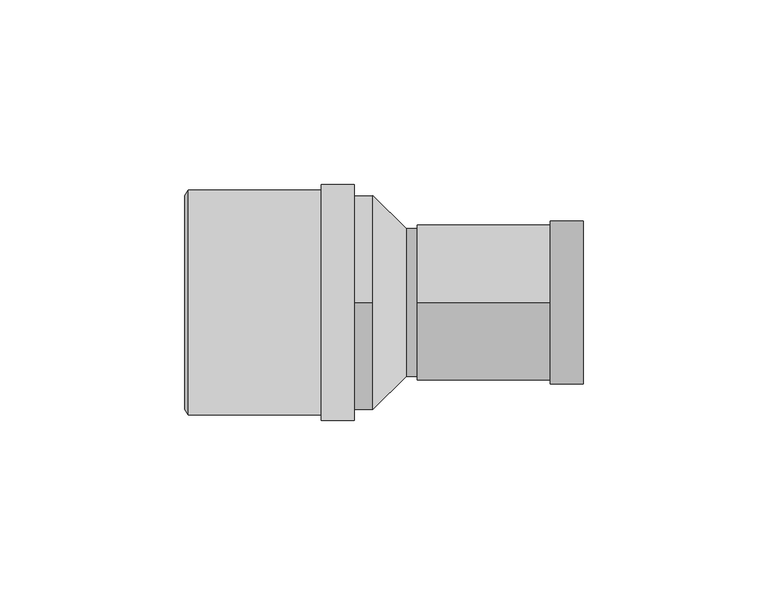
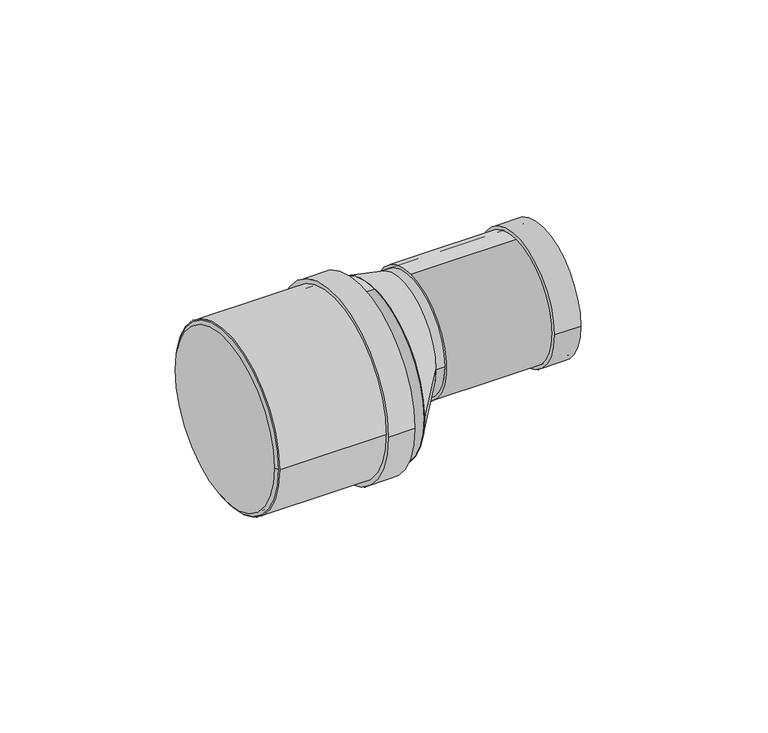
"""IFC4 building model written with IfcOpenShell, lengths in millimetres: pipe fitting geometry, Superdrain SK Reduction to HT : Superdrain SK Reduction to HT."""

from ifc_helpers import new_model, si_unit, point, frame, frame_2d, origin, origin_2d, place, context, project, spatial, polyline, circle_curve, trimmed, segment, composite_curve, outline, extrude, source, transform, mapped, element, save
from ifc_brep_helpers import plane_surface, revolved_surface, spline_surface, advanced_brep


def pipe_fitting_dc30568a(model_context):
    return source(origin(), model_context, "Body", "SolidModel", [
        extrude(outline(composite_curve([segment(trimmed(circle_curve(frame_2d((0.0, 0.1450234)), 30.45), [point((30.45, 0.1450234))], [point((-30.45, 0.1450234))], False, "CARTESIAN"), True, "CONTINUOUS"), segment(trimmed(circle_curve(frame_2d((0.0, 0.1450234)), 30.45), [point((-30.45, 0.1450234))], [point((30.45, 0.1450234))], False, "CARTESIAN"), True, "CONTINUOUS")], self_intersect=False), holes=[composite_curve([segment(trimmed(circle_curve(frame_2d((0.0, 0.1450234)), 29.0), [point((29.0, 0.1450234))], [point((-29.0, 0.1450234))], True, "CARTESIAN"), True, "CONTINUOUS"), segment(trimmed(circle_curve(frame_2d((0.0, 0.1450234)), 29.0), [point((-29.0, 0.1450234))], [point((29.0, 0.1450234))], True, "CARTESIAN"), True, "CONTINUOUS")], self_intersect=False)]), frame((-50.0, 0.0, 0.0), z_axis=(1.0, 0.0, 0.0), x_axis=(0.0, 1.0, 0.0)), (0.0, 0.0, 1.0), 45.0),
        extrude(outline(composite_curve([segment(trimmed(circle_curve(frame_2d((0.0, 0.1450234)), 31.9725), [point((31.9725, 0.1450234))], [point((-31.9725, 0.1450234))], False, "CARTESIAN"), True, "CONTINUOUS"), segment(trimmed(circle_curve(frame_2d((0.0, 0.1450234)), 31.9725), [point((-31.9725, 0.1450234))], [point((31.9725, 0.1450234))], False, "CARTESIAN"), True, "CONTINUOUS")], self_intersect=False), holes=[composite_curve([segment(trimmed(circle_curve(frame_2d((0.0, 0.1450234)), 29.0), [point((29.0, 0.1450234))], [point((-29.0, 0.1450234))], True, "CARTESIAN"), True, "CONTINUOUS"), segment(trimmed(circle_curve(frame_2d((0.0, 0.1450234)), 29.0), [point((-29.0, 0.1450234))], [point((29.0, 0.1450234))], True, "CARTESIAN"), True, "CONTINUOUS")], self_intersect=False)]), frame((-14.0, 0.0, 0.0), z_axis=(1.0, 0.0, 0.0), x_axis=(0.0, 1.0, 0.0)), (0.0, 0.0, 1.0), 9.0),
        advanced_brep(
        [(-51.0, 29.0, 0.1450234), (-51.0, -29.0, 0.1450234), (-50.0, 30.45, 0.1450234), (-50.0, -30.45, 0.1450234)],
        [
            (0, 1, circle_curve(frame((-51.0, 0.0, 0.1450234), z_axis=(-1.0, 0.0, 0.0), x_axis=(0.0, 1.0000000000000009, 0.0)), 29.0)),
            (1, 0, circle_curve(frame((-51.0, 0.0, 0.1450234), z_axis=(-1.0, 0.0, 0.0), x_axis=(0.0, -1.0000000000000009, 0.0)), 29.0)),
            (2, 3, circle_curve(frame((-50.0, 0.0, 0.1450234), z_axis=(1.0, 0.0, 0.0), x_axis=(0.0, -1.0000000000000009, 0.0)), 30.45)),
            (3, 2, circle_curve(frame((-50.0, 0.0, 0.1450234), z_axis=(1.0, 0.0, 0.0), x_axis=(0.0, 1.0000000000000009, 0.0)), 30.45)),
            (3, 1),
            (0, 2),
        ],
        [
            plane_surface(frame((-51.0, 0.0, 0.1450234), z_axis=(-1.0, 0.0, 0.0), x_axis=(0.0, 0.0, -1.0))),
            plane_surface(frame((-50.0, 0.0, 0.1450234), z_axis=(1.0, 0.0, 0.0), x_axis=(0.0, 0.0, -1.0))),
            revolved_surface(polyline([(-51.0, 28.999999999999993, 0.1450234), (-50.0, 30.45, 0.1450234)]), (-71.0, 0.0, 0.1450234), (1.0000000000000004, 0.0, 0.0)),
            revolved_surface(polyline([(-51.0, -28.999999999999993, 0.1450234), (-50.0, -30.45, 0.1450234)]), (-71.0, 0.0, 0.1450234), (1.0000000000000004, 0.0, 0.0)),
        ],
        [
            (0, [[1, 2]]),
            (1, [[3, 4]]),
            (2, [[-4, 5, -1, 6]]),
            (3, [[-3, -6, -2, -5]]),
        ],
    ),
        advanced_brep(
        [(9.0, -20.0, 9.0), (9.0, 20.0, 9.0), (0.0, -29.0, 0.0), (0.0, 29.0, 0.0)],
        [
            (0, 1, circle_curve(frame((9.0, 0.0, 9.0), z_axis=(1.0, 0.0, 0.0), x_axis=(0.0, 1.0, 0.0)), 20.0)),
            (1, 0, circle_curve(frame((9.0, 0.0, 9.0), z_axis=(1.0, 0.0, 0.0), x_axis=(0.0, 1.0, 0.0)), 20.0)),
            (2, 3, circle_curve(frame((0.0, 0.0, 0.0), z_axis=(-1.0, 0.0, 0.0), x_axis=(0.0, 1.0, 0.0)), 29.0)),
            (3, 2, circle_curve(frame((0.0, 0.0, 0.0), z_axis=(-1.0, 0.0, 0.0), x_axis=(0.0, 1.0, 0.0)), 29.0)),
            (3, 1),
            (0, 2),
        ],
        [
            plane_surface(frame((9.0, 0.0, 9.0), z_axis=(1.0, 0.0, 0.0), x_axis=(0.0, 0.0, -1.0))),
            plane_surface(frame((0.0, 0.0, 0.0), z_axis=(-1.0, 0.0, 0.0), x_axis=(0.0, 0.0, -1.0))),
            spline_surface(2, 1, [[(0.0, -29.0, 0.0), (9.0, -20.0, 9.0)], [(0.0, -29.0, -29.0), (9.0, -20.0, -11.0)], [(0.0, 0.0, -29.0), (9.0, 0.0, -11.0)], [(0.0, 29.0, -29.0), (9.0, 20.0, -11.0)], [(0.0, 29.0, 0.0), (9.0, 20.0, 9.0)]], [3, 2, 3], [2, 2], [0.0, 1.0, 2.0], [0.0, 1.0], weights=[[1.0, 1.0], [0.7071067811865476, 0.7071067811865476], [1.0, 1.0], [0.7071067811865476, 0.7071067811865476], [1.0, 1.0]]),
            spline_surface(2, 1, [[(0.0, 29.0, 0.0), (9.0, 20.0, 9.0)], [(0.0, 29.0, 29.0), (9.0, 20.0, 29.0)], [(0.0, 0.0, 29.0), (9.0, 0.0, 29.0)], [(0.0, -29.0, 29.0), (9.0, -20.0, 29.0)], [(0.0, -29.0, 0.0), (9.0, -20.0, 9.0)]], [3, 2, 3], [2, 2], [0.0, 1.0, 2.0], [0.0, 1.0], weights=[[1.0, 1.0], [0.7071067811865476, 0.7071067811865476], [1.0, 1.0], [0.7071067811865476, 0.7071067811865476], [1.0, 1.0]]),
        ],
        [
            (0, [[1, 2]]),
            (1, [[3, 4]]),
            (2, [[-4, 5, -1, 6]]),
            (3, [[-3, -6, -2, -5]]),
        ],
    ),
        extrude(outline(composite_curve([segment(trimmed(circle_curve(frame_2d((0.0, 9.0)), 20.0), [point((-20.0, 9.0))], [point((20.0, 9.0))], False, "CARTESIAN"), True, "CONTINUOUS"), segment(trimmed(circle_curve(frame_2d((0.0, 9.0)), 20.0), [point((20.0, 9.0))], [point((-20.0, 9.0))], False, "CARTESIAN"), True, "CONTINUOUS")], self_intersect=False)), frame((9.0, 0.0, 0.0), z_axis=(1.0, 0.0, 0.0), x_axis=(0.0, 1.0, 0.0)), (0.0, 0.0, 1.0), 3.0),
        extrude(outline(composite_curve([segment(trimmed(circle_curve(frame_2d((0.0, 9.0)), 22.05), [point((-22.05, 9.0))], [point((22.05, 9.0))], False, "CARTESIAN"), True, "CONTINUOUS"), segment(trimmed(circle_curve(frame_2d((0.0, 9.0)), 22.05), [point((22.05, 9.0))], [point((-22.05, 9.0))], False, "CARTESIAN"), True, "CONTINUOUS")], self_intersect=False), holes=[composite_curve([segment(trimmed(circle_curve(frame_2d((0.0, 9.0)), 20.0), [point((20.0, 9.0))], [point((-20.0, 9.0))], True, "CARTESIAN"), True, "CONTINUOUS"), segment(trimmed(circle_curve(frame_2d((0.0, 9.0)), 20.0), [point((-20.0, 9.0))], [point((20.0, 9.0))], True, "CARTESIAN"), True, "CONTINUOUS")], self_intersect=False)]), frame((48.0, 0.0, 0.0), z_axis=(1.0, 0.0, 0.0), x_axis=(0.0, 1.0, 0.0)), (0.0, 0.0, 1.0), 9.0),
        extrude(outline(composite_curve([segment(trimmed(circle_curve(frame_2d((0.0, 9.0)), 21.0), [point((0.0, 30.0))], [point((0.0, -12.0))], False, "CARTESIAN"), True, "CONTINUOUS"), segment(trimmed(circle_curve(frame_2d((0.0, 9.0)), 21.0), [point((0.0, -12.0))], [point((0.0, 30.0))], False, "CARTESIAN"), True, "CONTINUOUS")], self_intersect=False), holes=[composite_curve([segment(trimmed(circle_curve(frame_2d((0.0, 9.0)), 20.0), [point((20.0, 9.0))], [point((-20.0, 9.0))], True, "CARTESIAN"), True, "CONTINUOUS"), segment(trimmed(circle_curve(frame_2d((0.0, 9.0)), 20.0), [point((-20.0, 9.0))], [point((20.0, 9.0))], True, "CARTESIAN"), True, "CONTINUOUS")], self_intersect=False)]), frame((12.0, 0.0, 0.0), z_axis=(1.0, 0.0, 0.0), x_axis=(0.0, 1.0, 0.0)), (0.0, 0.0, 1.0), 45.0),
        extrude(outline(composite_curve([segment(trimmed(circle_curve(origin_2d(), 29.0), [point((0.0, 29.0))], [point((0.0, -29.0))], False, "CARTESIAN"), True, "CONTINUOUS"), segment(trimmed(circle_curve(origin_2d(), 29.0), [point((0.0, -29.0))], [point((0.0, 29.0))], False, "CARTESIAN"), True, "CONTINUOUS")], self_intersect=False)), frame((-50.0, 0.0, 0.0), z_axis=(1.0, 0.0, 0.0), x_axis=(0.0, 1.0, 0.0)), (0.0, 0.0, 1.0), 50.0),
    ])


if __name__ == "__main__":
    model = new_model("IFC4")
    model_context = context("Model", 3, world=origin())
    ifc_project = project(units=[si_unit("LENGTHUNIT", "METRE", prefix="MILLI")], contexts=[model_context])
    site = spatial("IfcSite", under=ifc_project)
    building = spatial("IfcBuilding", under=site)
    placement = place(None, origin())
    pipe_fitting_shape = pipe_fitting_dc30568a(model_context)
    element("IfcPipeFitting", 1, ObjectType="Superdrain SK Reduction to HT : Superdrain SK Reduction to HT", at=placement, inside=building, context=model_context, shape_type="MappedRepresentation", body=[
        mapped(pipe_fitting_shape, transform((0.0, 0.0, 0.0), x_axis=(1.0, 0.0, 0.0), y_axis=(0.0, 1.0, 0.0), z_axis=(0.0, 0.0, 1.0))),
    ])
    save(model, "model.ifc")
